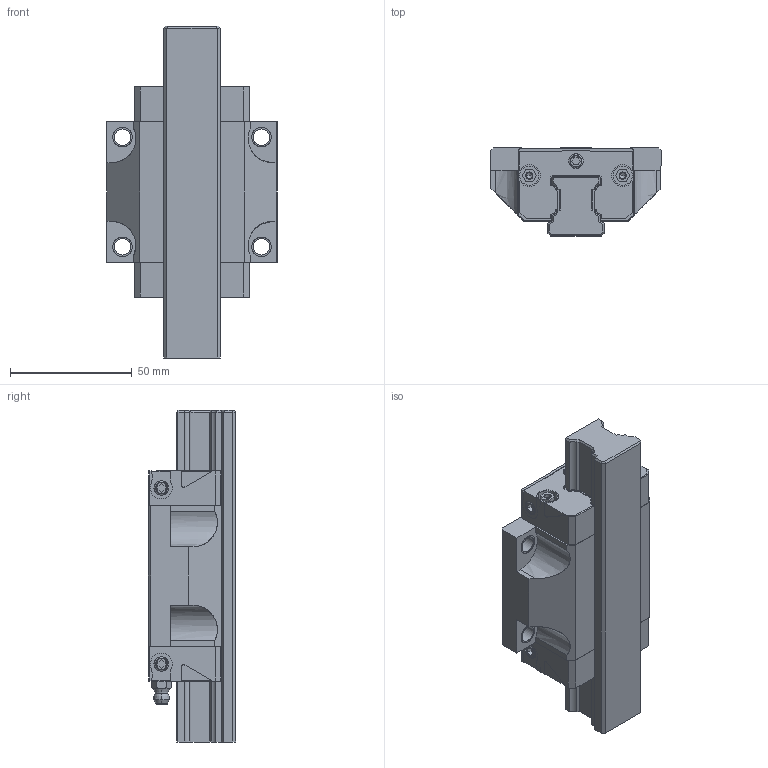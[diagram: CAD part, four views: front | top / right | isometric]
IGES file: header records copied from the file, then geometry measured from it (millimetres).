
Start section: 3D InterOp IGES (v. 2019 1.0.2), Spatial Corp. Copyright (c) 1999-2017.
Global section: file name: R2001 ... 90_size25.igs; native system: Spatial Corp.; preprocessor: 3D InterOp GENERIC/IGES 3.0; author: Noname; organization: Noname; date: 20220629.155228; units: millimetre
Bounding box: 70 x 36 x 136.2 mm (x, y, z)
Surface area: 50088.4 mm2 (no closed solid volume)
Topology: 0 solids, 0 shells, 565 faces, 3048 edges, 3026 vertices
Faces by surface type: extrusion 318, revolution 247
